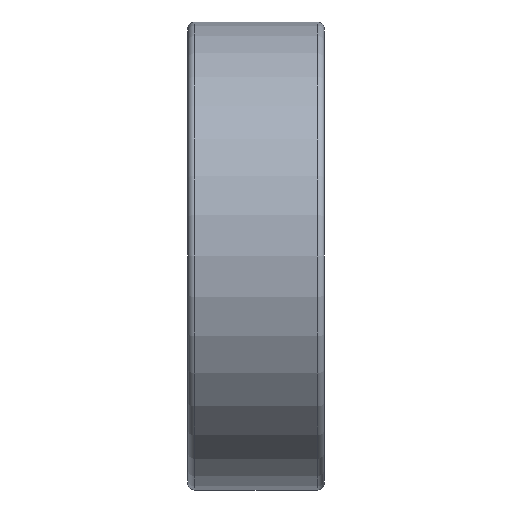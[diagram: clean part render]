
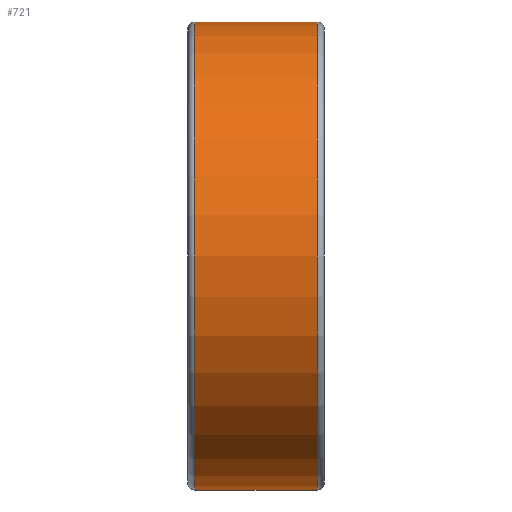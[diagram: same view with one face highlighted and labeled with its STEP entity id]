
A CAD part, front view. The second image highlights one B-rep face of the part: STEP entity #721.
In plain terms, the highlighted cylindrical face has radius 6 mm (diameter 12 mm), a partial arc.
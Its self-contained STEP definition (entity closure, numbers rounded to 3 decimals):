
#304=CARTESIAN_POINT('',(1.575,0.,0.));
#305=DIRECTION('',(1.,0.,0.));
#306=DIRECTION('',(0.,0.,1.));
#307=AXIS2_PLACEMENT_3D('',#304,#305,#306);
#319=DIRECTION('',(1.,0.,0.));
#320=VECTOR('',#319,3.15);
#321=CARTESIAN_POINT('',(-1.575,0.,6.));
#322=LINE('',#321,#320);
#323=DIRECTION('',(1.,0.,0.));
#324=VECTOR('',#323,3.15);
#325=CARTESIAN_POINT('',(-1.575,0.,-6.));
#326=LINE('',#325,#324);
#332=CARTESIAN_POINT('',(-1.575,0.,0.));
#333=DIRECTION('',(-1.,0.,0.));
#334=DIRECTION('',(0.,0.,-1.));
#335=AXIS2_PLACEMENT_3D('',#332,#333,#334);
#484=CARTESIAN_POINT('',(1.575,0.,-6.));
#485=CARTESIAN_POINT('',(1.575,0.,6.));
#486=VERTEX_POINT('',#484);
#487=VERTEX_POINT('',#485);
#496=CARTESIAN_POINT('',(-1.575,0.,-6.));
#497=VERTEX_POINT('',#496);
#498=CARTESIAN_POINT('',(-1.575,0.,6.));
#499=VERTEX_POINT('',#498);
#709=CARTESIAN_POINT('',(-12.457,0.,0.));
#710=DIRECTION('',(-1.,0.,0.));
#711=DIRECTION('',(0.,0.,1.));
#712=AXIS2_PLACEMENT_3D('',#709,#710,#711);
#713=CYLINDRICAL_SURFACE('',#712,6.);
#714=ORIENTED_EDGE('',*,*,#704,.F.);
#716=ORIENTED_EDGE('',*,*,#715,.T.);
#717=ORIENTED_EDGE('',*,*,#700,.T.);
#718=ORIENTED_EDGE('',*,*,#673,.T.);
#719=EDGE_LOOP('',(#714,#716,#717,#718));
#720=FACE_OUTER_BOUND('',#719,.F.);
#721=ADVANCED_FACE('',(#720),#713,.T.);
#308=CIRCLE('',#307,6.);
#336=CIRCLE('',#335,6.);
#673=EDGE_CURVE('',#487,#486,#308,.T.);
#700=EDGE_CURVE('',#499,#487,#322,.T.);
#704=EDGE_CURVE('',#497,#486,#326,.T.);
#715=EDGE_CURVE('',#497,#499,#336,.T.);
